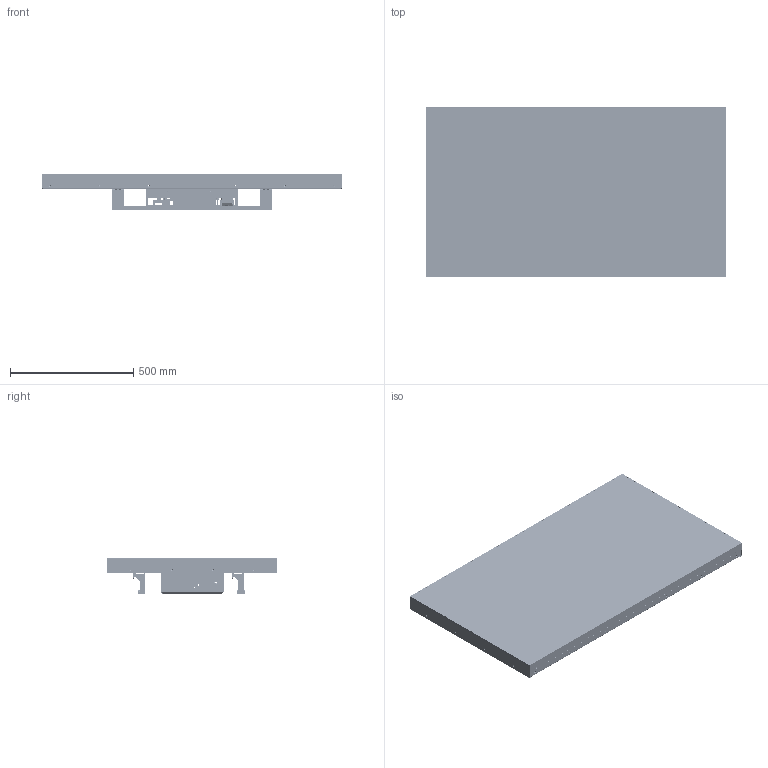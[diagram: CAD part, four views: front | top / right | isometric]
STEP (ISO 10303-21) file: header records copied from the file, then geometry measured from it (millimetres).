
FILE_DESCRIPTION(/* description */ (''),/* implementation_level */ '2;1');
FILE_NAME(/* name */ 'C:\Users\bh\Vault_Workspace\Data\Produkte\HD2LINE\PDP-55XSB\PDP 55XSB costumer view\PDP 55XSB costumer view.stp',/* time_stamp */ '2016-02-26T11:46:51+01:00',/* author */ ('bh'),/* organization */ (''),/* preprocessor_version */ 'ST-DEVELOPER v15.6',/* originating_system */ 'Autodesk Inventor 2015',/* authorisation */ '');
FILE_SCHEMA (('AUTOMOTIVE_DESIGN { 1 0 10303 214 3 1 1 }'));
Products named in the file (51): LG_LD55DUN_Panel; Bedinestreifen_55er; Southco-P2-42-RS; PDP-55XSB_Anordnung; PDP-55XSB-Multibody; PDP-55XSB_Blendbelch_Oben; PDP-55XSB_Vesa_Montagewinkel_Unten; PDP-55XSB_Vesa_Montagewinkel_Seitlich; PDP-55XSB_Blendblech_Seitlich; PDP-55XSB_Rückrahmen_55XSB; PDP-55XSB_Vesa_Halter_B1; PDP-55XSB_Vesa_Halter_B2; PDP-55XSB_Vesa_Querträger_B3; PDP-55XSB_Vesa_Montagewinkel_Oben; PDP-55XSB_Blechteile; KVT_S_M3_1; KVT_FH_M3_8; WUERTH_03943_DIN_6923_M3_8_A2K_Sperrzahnmutter; M-ET-004-A_Aufnahme Frontblenden; M-ET-005-B_0; KVT_FH_M4_8; KVT_FH_M4_10; KVT_SO_M3_6; WUERTH_03944_DIN_6923_M4_8_A2K_Sperrzahnmutter; M-ET-005-A_Aufnahme Motherboard; M-ET-001-B_0; M-ET-003-A_0; KVT_M4_RUC_FEKSG_3_0__13_; WUERTH_093646_DIN 7337-A 4x6_Blindniet; M-ET-001-A_Aufnahme Leiterplattenführung Teil 1; Kartenträger_Baugruppe; M-ET-012-B_0; M-ET-012-A_Rückhaube; M-ET-007-A_0; M-ET-007-A__Frontblendenabdeckung; M-ET-008-A_0; WUERTH 00893  6 counter sunk screw DIN 7991 M3x6 10_9 BLK_ST; Frontblendenabdeckung_Baugruppe; Halter Molexstecker_Baugruppe; Sicherheitslabel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
Assembly tree (163 placements, depth 5):
  PDP-55XSB
    PDP-55XSB-Multibody
      PDP-55XSB_Anordnung
        LG_LD55DUN_Panel
        Bedinestreifen_55er
        Southco-P2-42-RS  x2
    PDP-55XSB_Blechteile
      PDP-55XSB_Blendbelch_Oben
      PDP-55XSB_Vesa_Montagewinkel_Unten
      PDP-55XSB_Vesa_Montagewinkel_Seitlich  x2
      PDP-55XSB_Blendblech_Seitlich  x2
      PDP-55XSB_Rückrahmen_55XSB
      PDP-55XSB_Vesa_Halter_B1  x4
      PDP-55XSB_Vesa_Halter_B2  x8
      PDP-55XSB_Vesa_Querträger_B3  x2
      PDP-55XSB_Vesa_Montagewinkel_Oben  x2
    E-CUBE
      Kartenträger_Baugruppe
        M-ET-004-A_Aufnahme Frontblenden
          KVT_S_M3_1  x11
          KVT_FH_M3_8  x6
          WUERTH_03943_DIN_6923_M3_8_A2K_Sperrzahnmutter  x6
        M-ET-005-A_Aufnahme Motherboard
          M-ET-005-B_0
          KVT_S_M3_1  x3
          KVT_FH_M3_8  x6
          KVT_FH_M4_8  x2
          KVT_FH_M4_10
          KVT_SO_M3_6  x7
          WUERTH_03944_DIN_6923_M4_8_A2K_Sperrzahnmutter  x2
          WUERTH_03943_DIN_6923_M3_8_A2K_Sperrzahnmutter  x6
        M-ET-001-A_Aufnahme Leiterplattenführung Teil 1
          M-ET-001-B_0
          M-ET-003-A_0
          KVT_S_M3_1  x4
          KVT_FH_M4_8  x4
          KVT_FH_M4_10
          KVT_M4_RUC_FEKSG_3_0__13_  x4
          WUERTH_093646_DIN 7337-A 4x6_Blindniet  x4
          WUERTH_03944_DIN_6923_M4_8_A2K_Sperrzahnmutter  x4
      M-ET-012-A_Rückhaube
        M-ET-012-B_0
        KVT_FH_M4_10
      Frontblendenabdeckung_Baugruppe
        M-ET-007-A__Frontblendenabdeckung
          M-ET-007-A_0
          KVT_FH_M4_8  x2
        M-ET-008-A_0
        WUERTH 00893  6 counter sunk screw DIN 7991 M3x6 10_9 BLK_ST
        WUERTH_03944_DIN_6923_M4_8_A2K_Sperrzahnmutter  x2
      Netzteilaufnahme_Baugruppe
        WUERTH 00893  6 counter sunk screw DIN 7991 M3x6 10_9 BLK_ST
        Halter Molexstecker_Baugruppe
        Sicherheitslabel
        M-ET-009-A_Netzteilaufnahme
          M-ET-009-B_0
          KVT_FH_M4_8  x10
          KVT_FH_M4_12
          WUERTH_03944_DIN_6923_M4_8_A2K_Sperrzahnmutter  x10
        M-ET-010-A_Netzteilhalter und Verschlußleiste
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Bounding box: 1217.4 x 686.2 x 149.78 mm (x, y, z)
Volume: 34599815.1 mm3; surface area: 5327114.7 mm2
Topology: 162 solids, 162 shells, 6805 faces, 17793 edges, 11536 vertices
Faces by surface type: plane 3537, cylinder 2626, cone 485, torus 106, bspline 42, sphere 9
Full cylindrical faces by diameter (mm): 2 x4, 2.387 x12, 2.459 x34, 2.5 x2, 2.6 x6, 3 x35, 3.078 x4, 3.1 x18, 3.2 x8, 3.242 x42, 3.5 x6, 3.8 x3, 3.883 x7, 3.912 x12, 4 x74, 4.1 x23, 4.15 x12, 4.19 x7, 4.22 x18, 4.25 x30, 4.3 x12, 4.4 x4, 4.5 x8, 4.7 x3, 4.976 x18, 5.017 x23, 5.1 x8, 5.4 x21, 5.401 x6, 5.55 x8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
Entity records: 156531 total; most frequent: CARTESIAN_POINT 28473, DIRECTION 26321, ORIENTED_EDGE 24868, EDGE_CURVE 12434, AXIS2_PLACEMENT_3D 9091, VERTEX_POINT 8395, LINE 8139, VECTOR 8139
